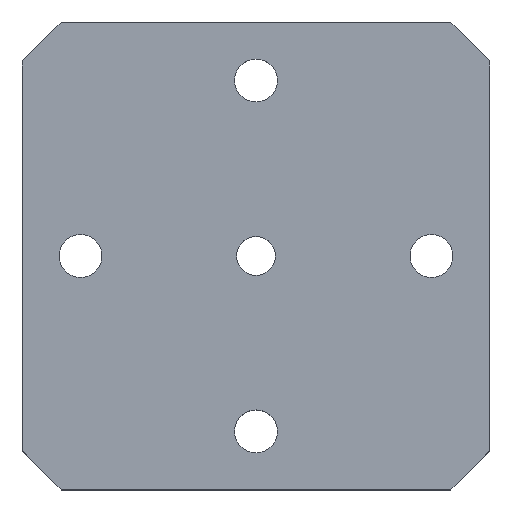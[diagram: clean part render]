
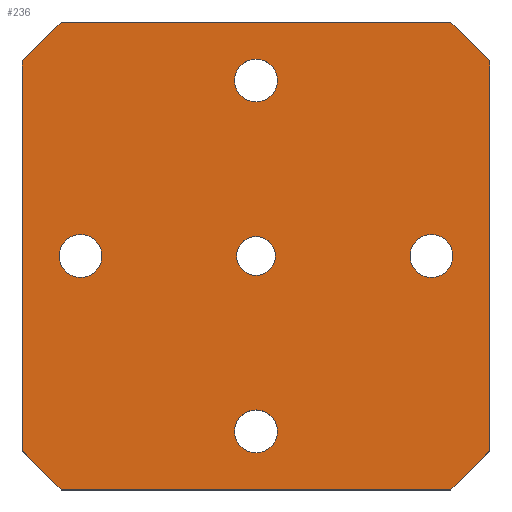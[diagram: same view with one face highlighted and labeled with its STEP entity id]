
A CAD part, top view. The second image highlights one B-rep face of the part: STEP entity #236.
In plain terms, the highlighted planar face has unit normal (0, 0, 1).
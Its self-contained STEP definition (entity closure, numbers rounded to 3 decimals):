
#55=AXIS2_PLACEMENT_3D('Circle Axis2P3D',#53,#54,$) ;
#79=AXIS2_PLACEMENT_3D('Circle Axis2P3D',#77,#78,$) ;
#92=AXIS2_PLACEMENT_3D('Plane Axis2P3D',#89,#90,#91) ;
#162=AXIS2_PLACEMENT_3D('Circle Axis2P3D',#160,#161,$) ;
#171=AXIS2_PLACEMENT_3D('Circle Axis2P3D',#169,#170,$) ;
#184=AXIS2_PLACEMENT_3D('Circle Axis2P3D',#182,#183,$) ;
#193=AXIS2_PLACEMENT_3D('Circle Axis2P3D',#191,#192,$) ;
#202=AXIS2_PLACEMENT_3D('Circle Axis2P3D',#200,#201,$) ;
#211=AXIS2_PLACEMENT_3D('Circle Axis2P3D',#209,#210,$) ;
#220=AXIS2_PLACEMENT_3D('Circle Axis2P3D',#218,#219,$) ;
#229=AXIS2_PLACEMENT_3D('Circle Axis2P3D',#227,#228,$) ;
#50=CARTESIAN_POINT('Vertex',(27.25,-7.5,10.)) ;
#53=CARTESIAN_POINT('Axis2P3D Location',(30.,-7.5,10.)) ;
#57=CARTESIAN_POINT('Vertex',(32.75,-7.5,10.)) ;
#77=CARTESIAN_POINT('Axis2P3D Location',(30.,-7.5,10.)) ;
#89=CARTESIAN_POINT('Axis2P3D Location',(0.,0.,10.)) ;
#94=CARTESIAN_POINT('Line Origine',(30.,-60.,10.)) ;
#98=CARTESIAN_POINT('Vertex',(5.,-60.,10.)) ;
#100=CARTESIAN_POINT('Vertex',(55.,-60.,10.)) ;
#103=CARTESIAN_POINT('Line Origine',(57.5,-57.5,10.)) ;
#107=CARTESIAN_POINT('Vertex',(60.,-55.,10.)) ;
#110=CARTESIAN_POINT('Line Origine',(60.,-30.,10.)) ;
#114=CARTESIAN_POINT('Vertex',(60.,-5.,10.)) ;
#117=CARTESIAN_POINT('Line Origine',(57.5,-2.5,10.)) ;
#121=CARTESIAN_POINT('Vertex',(55.,0.,10.)) ;
#124=CARTESIAN_POINT('Line Origine',(30.,0.,10.)) ;
#128=CARTESIAN_POINT('Vertex',(5.,0.,10.)) ;
#131=CARTESIAN_POINT('Line Origine',(2.5,-2.5,10.)) ;
#135=CARTESIAN_POINT('Vertex',(0.,-5.,10.)) ;
#138=CARTESIAN_POINT('Line Origine',(0.,-30.,10.)) ;
#142=CARTESIAN_POINT('Vertex',(0.,-55.,10.)) ;
#145=CARTESIAN_POINT('Line Origine',(2.5,-57.5,10.)) ;
#160=CARTESIAN_POINT('Axis2P3D Location',(30.,-30.,10.)) ;
#164=CARTESIAN_POINT('Vertex',(27.5,-30.,10.)) ;
#166=CARTESIAN_POINT('Vertex',(32.5,-30.,10.)) ;
#169=CARTESIAN_POINT('Axis2P3D Location',(30.,-30.,10.)) ;
#182=CARTESIAN_POINT('Axis2P3D Location',(30.,-52.5,10.)) ;
#186=CARTESIAN_POINT('Vertex',(32.75,-52.5,10.)) ;
#188=CARTESIAN_POINT('Vertex',(27.25,-52.5,10.)) ;
#191=CARTESIAN_POINT('Axis2P3D Location',(30.,-52.5,10.)) ;
#200=CARTESIAN_POINT('Axis2P3D Location',(7.5,-30.,10.)) ;
#204=CARTESIAN_POINT('Vertex',(10.25,-30.,10.)) ;
#206=CARTESIAN_POINT('Vertex',(4.75,-30.,10.)) ;
#209=CARTESIAN_POINT('Axis2P3D Location',(7.5,-30.,10.)) ;
#218=CARTESIAN_POINT('Axis2P3D Location',(52.5,-30.,10.)) ;
#222=CARTESIAN_POINT('Vertex',(55.25,-30.,10.)) ;
#224=CARTESIAN_POINT('Vertex',(49.75,-30.,10.)) ;
#227=CARTESIAN_POINT('Axis2P3D Location',(52.5,-30.,10.)) ;
#54=DIRECTION('Axis2P3D Direction',(0.,0.,1.)) ;
#78=DIRECTION('Axis2P3D Direction',(0.,0.,1.)) ;
#90=DIRECTION('Axis2P3D Direction',(0.,0.,1.)) ;
#91=DIRECTION('Axis2P3D XDirection',(1.,0.,0.)) ;
#95=DIRECTION('Vector Direction',(-1.,0.,0.)) ;
#104=DIRECTION('Vector Direction',(-0.707,-0.707,0.)) ;
#111=DIRECTION('Vector Direction',(0.,1.,0.)) ;
#118=DIRECTION('Vector Direction',(0.707,-0.707,0.)) ;
#125=DIRECTION('Vector Direction',(1.,0.,0.)) ;
#132=DIRECTION('Vector Direction',(0.707,0.707,0.)) ;
#139=DIRECTION('Vector Direction',(0.,-1.,0.)) ;
#146=DIRECTION('Vector Direction',(0.707,-0.707,0.)) ;
#161=DIRECTION('Axis2P3D Direction',(0.,0.,1.)) ;
#170=DIRECTION('Axis2P3D Direction',(0.,0.,1.)) ;
#183=DIRECTION('Axis2P3D Direction',(0.,0.,1.)) ;
#192=DIRECTION('Axis2P3D Direction',(0.,0.,1.)) ;
#201=DIRECTION('Axis2P3D Direction',(0.,0.,1.)) ;
#210=DIRECTION('Axis2P3D Direction',(0.,0.,1.)) ;
#219=DIRECTION('Axis2P3D Direction',(0.,0.,1.)) ;
#228=DIRECTION('Axis2P3D Direction',(0.,0.,1.)) ;
#96=VECTOR('Line Direction',#95,1.) ;
#105=VECTOR('Line Direction',#104,1.) ;
#112=VECTOR('Line Direction',#111,1.) ;
#119=VECTOR('Line Direction',#118,1.) ;
#126=VECTOR('Line Direction',#125,1.) ;
#133=VECTOR('Line Direction',#132,1.) ;
#140=VECTOR('Line Direction',#139,1.) ;
#147=VECTOR('Line Direction',#146,1.) ;
#151=ORIENTED_EDGE('',*,*,#102,.T.) ;
#152=ORIENTED_EDGE('',*,*,#109,.F.) ;
#153=ORIENTED_EDGE('',*,*,#116,.T.) ;
#154=ORIENTED_EDGE('',*,*,#123,.F.) ;
#155=ORIENTED_EDGE('',*,*,#130,.T.) ;
#156=ORIENTED_EDGE('',*,*,#137,.F.) ;
#157=ORIENTED_EDGE('',*,*,#144,.T.) ;
#158=ORIENTED_EDGE('',*,*,#149,.F.) ;
#175=ORIENTED_EDGE('',*,*,#168,.F.) ;
#176=ORIENTED_EDGE('',*,*,#173,.F.) ;
#179=ORIENTED_EDGE('',*,*,#81,.F.) ;
#180=ORIENTED_EDGE('',*,*,#59,.F.) ;
#197=ORIENTED_EDGE('',*,*,#190,.F.) ;
#198=ORIENTED_EDGE('',*,*,#195,.F.) ;
#215=ORIENTED_EDGE('',*,*,#208,.F.) ;
#216=ORIENTED_EDGE('',*,*,#213,.F.) ;
#233=ORIENTED_EDGE('',*,*,#226,.F.) ;
#234=ORIENTED_EDGE('',*,*,#231,.F.) ;
#177=FACE_BOUND('',#174,.T.) ;
#181=FACE_BOUND('',#178,.T.) ;
#199=FACE_BOUND('',#196,.T.) ;
#217=FACE_BOUND('',#214,.T.) ;
#235=FACE_BOUND('',#232,.T.) ;
#236=ADVANCED_FACE('\X2\96F64EF651E04F554F53\X0\',(#159,#177,#181,#199,#217,#235),#93,.T.) ;
#56=CIRCLE('generated circle',#55,2.75) ;
#80=CIRCLE('generated circle',#79,2.75) ;
#163=CIRCLE('generated circle',#162,2.5) ;
#172=CIRCLE('generated circle',#171,2.5) ;
#185=CIRCLE('generated circle',#184,2.75) ;
#194=CIRCLE('generated circle',#193,2.75) ;
#203=CIRCLE('generated circle',#202,2.75) ;
#212=CIRCLE('generated circle',#211,2.75) ;
#221=CIRCLE('generated circle',#220,2.75) ;
#230=CIRCLE('generated circle',#229,2.75) ;
#59=EDGE_CURVE('',#51,#58,#56,.T.) ;
#81=EDGE_CURVE('',#58,#51,#80,.T.) ;
#102=EDGE_CURVE('',#99,#101,#97,.F.) ;
#109=EDGE_CURVE('',#108,#101,#106,.T.) ;
#116=EDGE_CURVE('',#108,#115,#113,.T.) ;
#123=EDGE_CURVE('',#122,#115,#120,.T.) ;
#130=EDGE_CURVE('',#122,#129,#127,.F.) ;
#137=EDGE_CURVE('',#136,#129,#134,.T.) ;
#144=EDGE_CURVE('',#136,#143,#141,.T.) ;
#149=EDGE_CURVE('',#99,#143,#148,.F.) ;
#168=EDGE_CURVE('',#165,#167,#163,.T.) ;
#173=EDGE_CURVE('',#167,#165,#172,.T.) ;
#190=EDGE_CURVE('',#187,#189,#185,.T.) ;
#195=EDGE_CURVE('',#189,#187,#194,.T.) ;
#208=EDGE_CURVE('',#205,#207,#203,.T.) ;
#213=EDGE_CURVE('',#207,#205,#212,.T.) ;
#226=EDGE_CURVE('',#223,#225,#221,.T.) ;
#231=EDGE_CURVE('',#225,#223,#230,.T.) ;
#150=EDGE_LOOP('',(#151,#152,#153,#154,#155,#156,#157,#158)) ;
#174=EDGE_LOOP('',(#175,#176)) ;
#178=EDGE_LOOP('',(#179,#180)) ;
#196=EDGE_LOOP('',(#197,#198)) ;
#214=EDGE_LOOP('',(#215,#216)) ;
#232=EDGE_LOOP('',(#233,#234)) ;
#159=FACE_OUTER_BOUND('',#150,.T.) ;
#97=LINE('Line',#94,#96) ;
#106=LINE('Line',#103,#105) ;
#113=LINE('Line',#110,#112) ;
#120=LINE('Line',#117,#119) ;
#127=LINE('Line',#124,#126) ;
#134=LINE('Line',#131,#133) ;
#141=LINE('Line',#138,#140) ;
#148=LINE('Line',#145,#147) ;
#93=PLANE('',#92) ;
#51=VERTEX_POINT('',#50) ;
#58=VERTEX_POINT('',#57) ;
#99=VERTEX_POINT('',#98) ;
#101=VERTEX_POINT('',#100) ;
#108=VERTEX_POINT('',#107) ;
#115=VERTEX_POINT('',#114) ;
#122=VERTEX_POINT('',#121) ;
#129=VERTEX_POINT('',#128) ;
#136=VERTEX_POINT('',#135) ;
#143=VERTEX_POINT('',#142) ;
#165=VERTEX_POINT('',#164) ;
#167=VERTEX_POINT('',#166) ;
#187=VERTEX_POINT('',#186) ;
#189=VERTEX_POINT('',#188) ;
#205=VERTEX_POINT('',#204) ;
#207=VERTEX_POINT('',#206) ;
#223=VERTEX_POINT('',#222) ;
#225=VERTEX_POINT('',#224) ;
